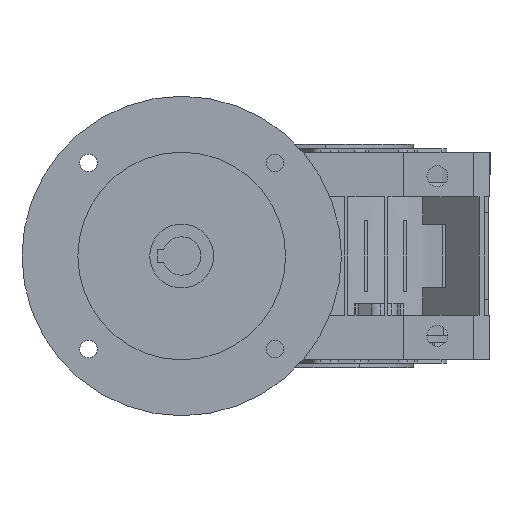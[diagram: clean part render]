
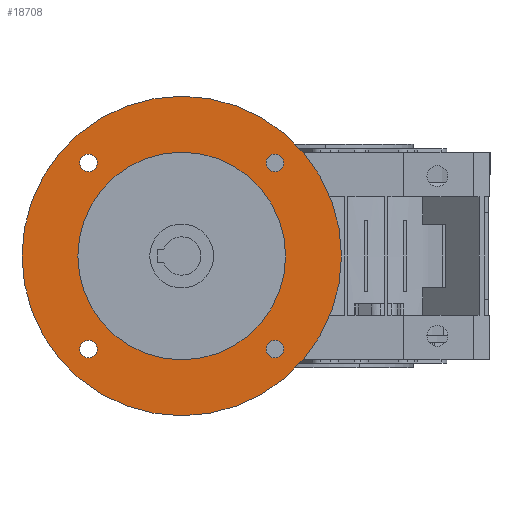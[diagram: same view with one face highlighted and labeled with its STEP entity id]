
A CAD part, left-side view. The second image highlights one B-rep face of the part: STEP entity #18708.
In plain terms, the highlighted planar face has unit normal (-1, 0, 0) as drawn and (1, 0, 0) by its records, which use the part's own axes.
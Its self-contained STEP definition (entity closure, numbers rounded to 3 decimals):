
#1029 = EDGE_CURVE ( 'NONE', #34505, #10607, #33711, .T. ) ;
#1164 = VERTEX_POINT ( 'NONE', #33858 ) ;
#1306 = EDGE_CURVE ( 'NONE', #19364, #1164, #26839, .T. ) ;
#1717 = DIRECTION ( 'NONE',  ( -1., 0., 0. ) ) ;
#1949 = EDGE_CURVE ( 'NONE', #18279, #31659, #19038, .T. ) ;
#2355 = ORIENTED_EDGE ( 'NONE', *, *, #28563, .F. ) ;
#2577 = AXIS2_PLACEMENT_3D ( 'NONE', #4344, #16798, #38764 ) ;
#3059 = DIRECTION ( 'NONE',  ( 0., 0., 1. ) ) ;
#3403 = DIRECTION ( 'NONE',  ( 1., 0., 0. ) ) ;
#3711 = CIRCLE ( 'NONE', #16765, 100. ) ;
#3881 = DIRECTION ( 'NONE',  ( 0., 0., 1. ) ) ;
#4344 = CARTESIAN_POINT ( 'NONE',  ( 15., -58.336, 58.336 ) ) ;
#6062 = DIRECTION ( 'NONE',  ( 0., 1., 0. ) ) ;
#6760 = EDGE_CURVE ( 'NONE', #1164, #19364, #35398, .T. ) ;
#6786 = AXIS2_PLACEMENT_3D ( 'NONE', #33537, #36823, #33808 ) ;
#7225 = ORIENTED_EDGE ( 'NONE', *, *, #27666, .T. ) ;
#7233 = DIRECTION ( 'NONE',  ( -1., 0., 0. ) ) ;
#7398 = ORIENTED_EDGE ( 'NONE', *, *, #25188, .F. ) ;
#7615 = DIRECTION ( 'NONE',  ( 1., 0., 0. ) ) ;
#7732 = FACE_BOUND ( 'NONE', #19051, .T. ) ;
#7733 = AXIS2_PLACEMENT_3D ( 'NONE', #20864, #1717, #23862 ) ;
#7998 = ORIENTED_EDGE ( 'NONE', *, *, #22437, .F. ) ;
#8915 = ORIENTED_EDGE ( 'NONE', *, *, #19010, .F. ) ;
#9223 = FACE_BOUND ( 'NONE', #22989, .T. ) ;
#9770 = CARTESIAN_POINT ( 'NONE',  ( 15., -58.336, 63.836 ) ) ;
#9790 = AXIS2_PLACEMENT_3D ( 'NONE', #38579, #7233, #3881 ) ;
#9891 = CIRCLE ( 'NONE', #35090, 5.5 ) ;
#10462 = DIRECTION ( 'NONE',  ( 0., 0., -1. ) ) ;
#10607 = VERTEX_POINT ( 'NONE', #29860 ) ;
#10843 = AXIS2_PLACEMENT_3D ( 'NONE', #23267, #17128, #39102 ) ;
#10957 = CIRCLE ( 'NONE', #30269, 5.5 ) ;
#11419 = DIRECTION ( 'NONE',  ( -1., 0., 0. ) ) ;
#12021 = EDGE_LOOP ( 'NONE', ( #38779, #12082 ) ) ;
#12082 = ORIENTED_EDGE ( 'NONE', *, *, #17039, .F. ) ;
#12382 = DIRECTION ( 'NONE',  ( 1., 0., 0. ) ) ;
#12861 = CARTESIAN_POINT ( 'NONE',  ( 15., 58.336, 63.836 ) ) ;
#13343 = CARTESIAN_POINT ( 'NONE',  ( 15., 58.336, -58.336 ) ) ;
#14123 = FACE_OUTER_BOUND ( 'NONE', #30704, .T. ) ;
#14229 = AXIS2_PLACEMENT_3D ( 'NONE', #36169, #11419, #36452 ) ;
#14250 = CARTESIAN_POINT ( 'NONE',  ( 15., 58.336, -63.836 ) ) ;
#14841 = CIRCLE ( 'NONE', #14229, 65. ) ;
#15312 = DIRECTION ( 'NONE',  ( 0., -1., 0. ) ) ;
#15632 = FACE_BOUND ( 'NONE', #27521, .T. ) ;
#15650 = CARTESIAN_POINT ( 'NONE',  ( 15., 0., 0. ) ) ;
#16321 = CARTESIAN_POINT ( 'NONE',  ( 15., -58.336, 52.836 ) ) ;
#16646 = VERTEX_POINT ( 'NONE', #19455 ) ;
#16765 = AXIS2_PLACEMENT_3D ( 'NONE', #15650, #38018, #3059 ) ;
#16798 = DIRECTION ( 'NONE',  ( 1., 0., 0. ) ) ;
#17039 = EDGE_CURVE ( 'NONE', #22823, #16646, #9891, .T. ) ;
#17128 = DIRECTION ( 'NONE',  ( -1., 0., 0. ) ) ;
#17296 = CARTESIAN_POINT ( 'NONE',  ( 15., 0., 65. ) ) ;
#17730 = PLANE ( 'NONE',  #7733 ) ;
#17939 = CARTESIAN_POINT ( 'NONE',  ( 15., 0., -100. ) ) ;
#18279 = VERTEX_POINT ( 'NONE', #9770 ) ;
#18708 = ADVANCED_FACE ( 'NONE', ( #33320, #23956, #9223, #15632, #14123, #7732 ), #17730, .F. ) ;
#18712 = VERTEX_POINT ( 'NONE', #14250 ) ;
#18729 = CARTESIAN_POINT ( 'NONE',  ( 15., 58.336, -58.336 ) ) ;
#19010 = EDGE_CURVE ( 'NONE', #34207, #24432, #3711, .T. ) ;
#19038 = CIRCLE ( 'NONE', #35602, 5.5 ) ;
#19051 = EDGE_LOOP ( 'NONE', ( #32396, #7225 ) ) ;
#19364 = VERTEX_POINT ( 'NONE', #23960 ) ;
#19455 = CARTESIAN_POINT ( 'NONE',  ( 15., 58.336, 52.836 ) ) ;
#19933 = AXIS2_PLACEMENT_3D ( 'NONE', #18729, #28066, #34529 ) ;
#20864 = CARTESIAN_POINT ( 'NONE',  ( 15., 100., 0. ) ) ;
#21603 = AXIS2_PLACEMENT_3D ( 'NONE', #13343, #32616, #10462 ) ;
#21759 = CIRCLE ( 'NONE', #2577, 5.5 ) ;
#21782 = EDGE_CURVE ( 'NONE', #16646, #22823, #10957, .T. ) ;
#22437 = EDGE_CURVE ( 'NONE', #31659, #18279, #21759, .T. ) ;
#22823 = VERTEX_POINT ( 'NONE', #12861 ) ;
#22989 = EDGE_LOOP ( 'NONE', ( #27413, #40168 ) ) ;
#23267 = CARTESIAN_POINT ( 'NONE',  ( 15., 0., 0. ) ) ;
#23579 = CIRCLE ( 'NONE', #9790, 100. ) ;
#23697 = CARTESIAN_POINT ( 'NONE',  ( 15., -58.336, 58.336 ) ) ;
#23862 = DIRECTION ( 'NONE',  ( 0., 0., 1. ) ) ;
#23956 = FACE_BOUND ( 'NONE', #35203, .T. ) ;
#23960 = CARTESIAN_POINT ( 'NONE',  ( 15., -58.336, -63.836 ) ) ;
#24432 = VERTEX_POINT ( 'NONE', #31024 ) ;
#25188 = EDGE_CURVE ( 'NONE', #18712, #28202, #26299, .T. ) ;
#26299 = CIRCLE ( 'NONE', #21603, 5.5 ) ;
#26839 = CIRCLE ( 'NONE', #28209, 5.5 ) ;
#27413 = ORIENTED_EDGE ( 'NONE', *, *, #1306, .F. ) ;
#27521 = EDGE_LOOP ( 'NONE', ( #7398, #34747 ) ) ;
#27666 = EDGE_CURVE ( 'NONE', #10607, #34505, #14841, .T. ) ;
#28066 = DIRECTION ( 'NONE',  ( 1., 0., 0. ) ) ;
#28127 = DIRECTION ( 'NONE',  ( 0., 1., 0. ) ) ;
#28202 = VERTEX_POINT ( 'NONE', #39177 ) ;
#28209 = AXIS2_PLACEMENT_3D ( 'NONE', #34135, #12382, #15312 ) ;
#28341 = CARTESIAN_POINT ( 'NONE',  ( 15., 58.336, 58.336 ) ) ;
#28563 = EDGE_CURVE ( 'NONE', #24432, #34207, #23579, .T. ) ;
#29174 = CIRCLE ( 'NONE', #19933, 5.5 ) ;
#29504 = DIRECTION ( 'NONE',  ( 0., 0., 1. ) ) ;
#29860 = CARTESIAN_POINT ( 'NONE',  ( 15., 0., -65. ) ) ;
#30269 = AXIS2_PLACEMENT_3D ( 'NONE', #35284, #32108, #28127 ) ;
#30391 = EDGE_CURVE ( 'NONE', #28202, #18712, #29174, .T. ) ;
#30704 = EDGE_LOOP ( 'NONE', ( #2355, #8915 ) ) ;
#31024 = CARTESIAN_POINT ( 'NONE',  ( 15., 0., 100. ) ) ;
#31659 = VERTEX_POINT ( 'NONE', #16321 ) ;
#32108 = DIRECTION ( 'NONE',  ( 1., 0., 0. ) ) ;
#32396 = ORIENTED_EDGE ( 'NONE', *, *, #1029, .T. ) ;
#32616 = DIRECTION ( 'NONE',  ( 1., 0., 0. ) ) ;
#33320 = FACE_BOUND ( 'NONE', #12021, .T. ) ;
#33537 = CARTESIAN_POINT ( 'NONE',  ( 15., -58.336, -58.336 ) ) ;
#33711 = CIRCLE ( 'NONE', #10843, 65. ) ;
#33808 = DIRECTION ( 'NONE',  ( 0., -1., 0. ) ) ;
#33858 = CARTESIAN_POINT ( 'NONE',  ( 15., -58.336, -52.836 ) ) ;
#34135 = CARTESIAN_POINT ( 'NONE',  ( 15., -58.336, -58.336 ) ) ;
#34207 = VERTEX_POINT ( 'NONE', #17939 ) ;
#34505 = VERTEX_POINT ( 'NONE', #17296 ) ;
#34529 = DIRECTION ( 'NONE',  ( 0., 0., -1. ) ) ;
#34747 = ORIENTED_EDGE ( 'NONE', *, *, #30391, .F. ) ;
#35090 = AXIS2_PLACEMENT_3D ( 'NONE', #28341, #3403, #6062 ) ;
#35203 = EDGE_LOOP ( 'NONE', ( #7998, #37216 ) ) ;
#35284 = CARTESIAN_POINT ( 'NONE',  ( 15., 58.336, 58.336 ) ) ;
#35398 = CIRCLE ( 'NONE', #6786, 5.5 ) ;
#35602 = AXIS2_PLACEMENT_3D ( 'NONE', #23697, #7615, #29504 ) ;
#36169 = CARTESIAN_POINT ( 'NONE',  ( 15., 0., 0. ) ) ;
#36452 = DIRECTION ( 'NONE',  ( 0., 0., 1. ) ) ;
#36823 = DIRECTION ( 'NONE',  ( 1., 0., 0. ) ) ;
#37216 = ORIENTED_EDGE ( 'NONE', *, *, #1949, .F. ) ;
#38018 = DIRECTION ( 'NONE',  ( -1., 0., 0. ) ) ;
#38579 = CARTESIAN_POINT ( 'NONE',  ( 15., 0., 0. ) ) ;
#38764 = DIRECTION ( 'NONE',  ( 0., 0., 1. ) ) ;
#38779 = ORIENTED_EDGE ( 'NONE', *, *, #21782, .F. ) ;
#39102 = DIRECTION ( 'NONE',  ( 0., 0., 1. ) ) ;
#39177 = CARTESIAN_POINT ( 'NONE',  ( 15., 58.336, -52.836 ) ) ;
#40168 = ORIENTED_EDGE ( 'NONE', *, *, #6760, .F. ) ;
